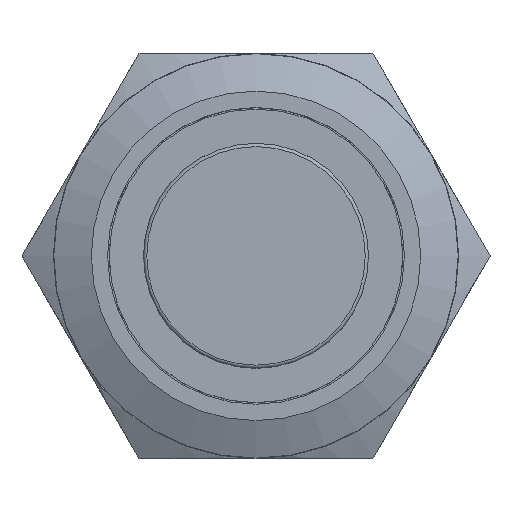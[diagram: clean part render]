
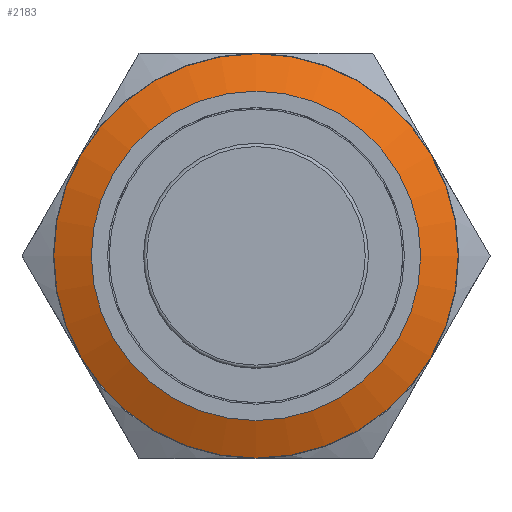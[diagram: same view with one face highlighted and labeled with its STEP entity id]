
A CAD part, top view. The second image highlights one B-rep face of the part: STEP entity #2183.
In plain terms, the highlighted conical face has half-angle 66.506 degrees and reference radius 12.4 mm.
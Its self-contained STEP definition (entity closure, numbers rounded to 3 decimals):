
#156=CONICAL_SURFACE('',#25317,12.4,66.506);
#527=FACE_BOUND('',#5700,.T.);
#528=FACE_BOUND('',#5701,.T.);
#970=CIRCLE('',#25314,12.4);
#971=CIRCLE('',#25316,10.099);
#2183=ADVANCED_FACE('',(#527,#528),#156,.T.);
#5700=EDGE_LOOP('',(#12301));
#5701=EDGE_LOOP('',(#12302));
#12301=ORIENTED_EDGE('',*,*,#17924,.T.);
#12302=ORIENTED_EDGE('',*,*,#17923,.F.);
#14600=VERTEX_POINT('',#39918);
#14601=VERTEX_POINT('',#39921);
#17923=EDGE_CURVE('',#14600,#14600,#970,.T.);
#17924=EDGE_CURVE('',#14601,#14601,#971,.T.);
#25314=AXIS2_PLACEMENT_3D('',#39917,#31197,#31198);
#25316=AXIS2_PLACEMENT_3D('',#39920,#31201,#31202);
#25317=AXIS2_PLACEMENT_3D('',#39922,#31203,#31204);
#31197=DIRECTION('',(0.,0.,-1.));
#31198=DIRECTION('',(-1.,0.,0.));
#31201=DIRECTION('',(0.,0.,-1.));
#31202=DIRECTION('',(-1.,0.,0.));
#31203=DIRECTION('',(0.,0.,-1.));
#31204=DIRECTION('',(1.,0.,0.));
#39917=CARTESIAN_POINT('',(-0.1,0.,16.8));
#39918=CARTESIAN_POINT('',(-12.5,0.,16.8));
#39920=CARTESIAN_POINT('',(-0.1,0.,17.8));
#39921=CARTESIAN_POINT('',(-10.199,0.,17.8));
#39922=CARTESIAN_POINT('',(-0.1,0.,16.8));
